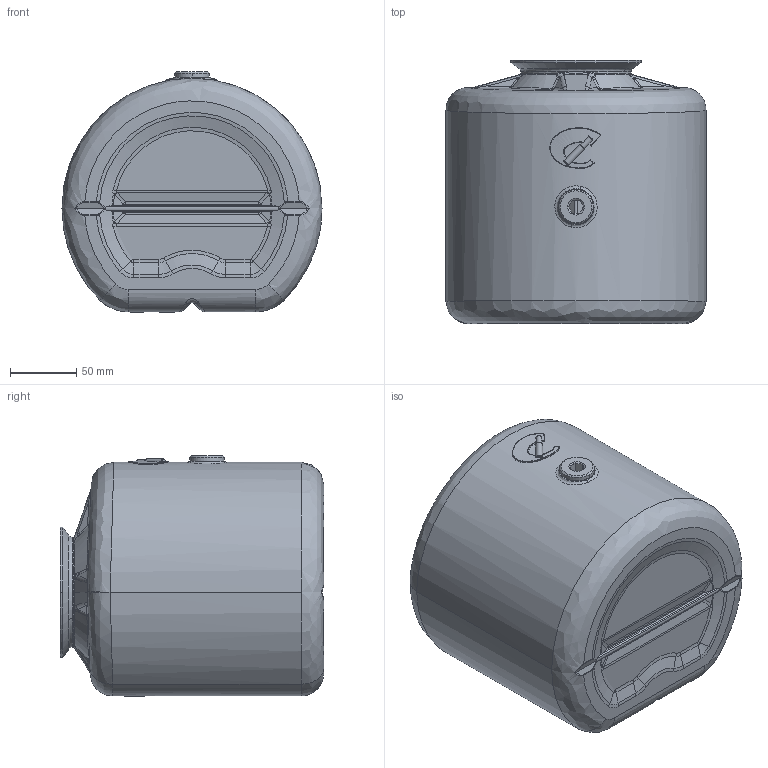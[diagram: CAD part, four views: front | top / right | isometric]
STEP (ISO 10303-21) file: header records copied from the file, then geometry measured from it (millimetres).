
FILE_DESCRIPTION (( 'STEP AP203' ), '1' );
FILE_NAME ('RP4P.STEP', '2022-07-06T13:22:41', ( '' ), ( '' ), 'SwSTEP 2.0', 'SolidWorks 2021', '' );
FILE_SCHEMA (( 'CONFIG_CONTROL_DESIGN' ));
Length unit declared in the file: millimetre
Products named in the file (1): RP4P
Bounding box: 196 x 198.5 x 181.34 mm (x, y, z)
Surface area: 246779.8 mm2 (no closed solid volume)
Topology: 0 solids, 7 shells, 427 faces, 1284 edges, 825 vertices
Faces by surface type: bspline 214, plane 93, cylinder 74, cone 35, torus 10, sphere 1
Entity records: 42721 total; most frequent: CARTESIAN_POINT 33519, ORIENTED_EDGE 2178, EDGE_CURVE 1269, DIRECTION 1226, VERTEX_POINT 824, B_SPLINE_CURVE_WITH_KNOTS 641, EDGE_LOOP 454, AXIS2_PLACEMENT_3D 446
